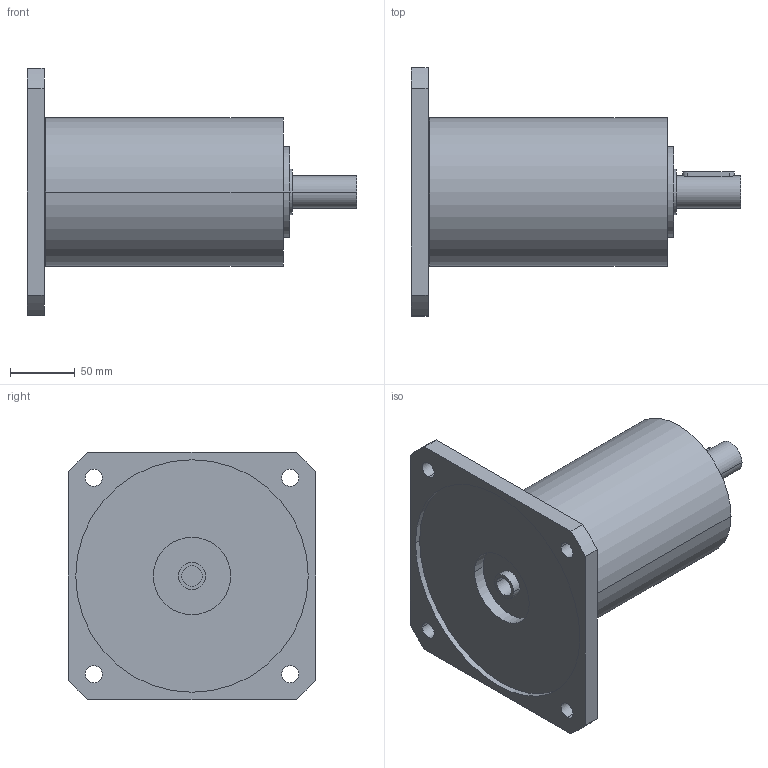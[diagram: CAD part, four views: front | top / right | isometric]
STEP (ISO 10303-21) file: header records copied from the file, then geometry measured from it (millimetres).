
FILE_DESCRIPTION(('CoCreate Modeling STEP Export'),'2;1');
FILE_NAME('GPR125_ig-48-64-80-100-140-196-245-343_25_B14_15.87_P09.stp','2014-08-26T14:21:06',(''),(''),'CoCreate Modeling STEP processor for AP214 (Solid Model)','CoCreate Modeling 16.00C 25-Feb-2009 (C) Parametric Technology GmbH','');
FILE_SCHEMA(('AUTOMOTIVE_DESIGN { 1 0 10303 214 1 1 1 1 }'));
Length unit declared in the file: millimetre
Products named in the file (2): GPR125_ig-48-64-80-100-140-196-245-343_25_B14_15.87_P09
Assembly tree (1 placements, depth 2):
  GPR125_ig-48-64-80-100-140-196-245-343_25_B14_15.87_P09
    GPR125_ig-48-64-80-100-140-196-245-343_25_B14_15.87_P09
Bounding box: 255 x 192 x 192 mm (x, y, z)
Volume: 2276391.2 mm3; surface area: 177889.3 mm2
Topology: 1 solids, 1 shells, 68 faces, 186 edges, 132 vertices
Faces by surface type: cylinder 42, plane 22, cone 4
Entity records: 1918 total; most frequent: ORIENTED_EDGE 368, CARTESIAN_POINT 361, DIRECTION 258, EDGE_CURVE 184, VERTEX_POINT 132, AXIS2_PLACEMENT_3D 97, EDGE_LOOP 90, FACE_OUTER_BOUND 68
